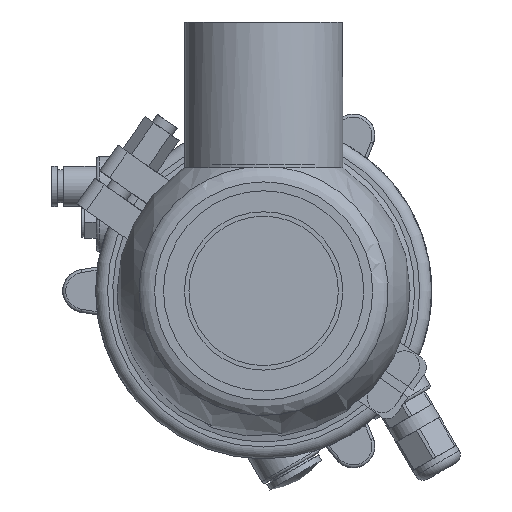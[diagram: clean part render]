
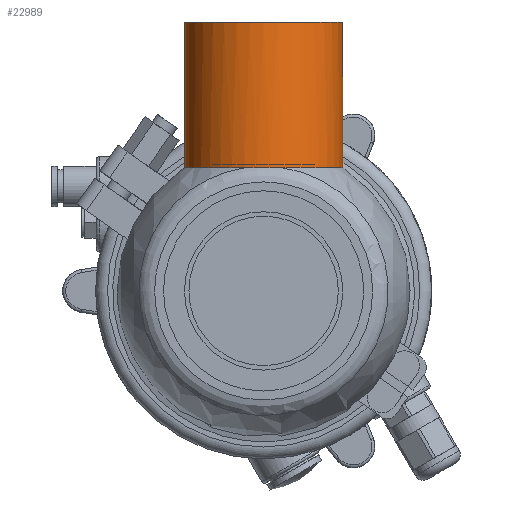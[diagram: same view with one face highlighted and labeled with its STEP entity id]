
A CAD part, front view. The second image highlights one B-rep face of the part: STEP entity #22989.
In plain terms, the highlighted cylindrical face has radius 26.5 mm (diameter 53 mm), a full revolution.
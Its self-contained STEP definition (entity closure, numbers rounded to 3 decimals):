
#1194 = CARTESIAN_POINT ( 'NONE',  ( 41.216, -25.714, -6.407 ) ) ;
#2255 = ORIENTED_EDGE ( 'NONE', *, *, #11009, .T. ) ;
#2672 = VERTEX_POINT ( 'NONE', #15886 ) ;
#5561 = AXIS2_PLACEMENT_3D ( 'NONE', #29015, #57636, #20089 ) ;
#6424 = CARTESIAN_POINT ( 'NONE',  ( 41.162, -26.433, 2.166 ) ) ;
#7413 = AXIS2_PLACEMENT_3D ( 'NONE', #47749, #19808, #10846 ) ;
#9836 = CARTESIAN_POINT ( 'NONE',  ( 41.216, -25.976, -5.353 ) ) ;
#10755 = CARTESIAN_POINT ( 'NONE',  ( 41.151, -26.485, -1.052 ) ) ;
#10846 = DIRECTION ( 'NONE',  ( 0., 0., 1. ) ) ;
#11009 = EDGE_CURVE ( 'NONE', #2672, #2672, #58656, .T. ) ;
#14131 = AXIS2_PLACEMENT_3D ( 'NONE', #55446, #45582, #41928 ) ;
#15509 = CYLINDRICAL_SURFACE ( 'NONE', #7413, 26.5 ) ;
#15707 = CARTESIAN_POINT ( 'NONE',  ( 41.148, -26.5, -0.514 ) ) ;
#15886 = CARTESIAN_POINT ( 'NONE',  ( 90., 0., 26.5 ) ) ;
#19808 = DIRECTION ( 'NONE',  ( -1., 0., 0. ) ) ;
#19942 = EDGE_CURVE ( 'NONE', #53050, #24224, #32777, .T. ) ;
#20089 = DIRECTION ( 'NONE',  ( 0., 0., 1. ) ) ;
#22989 = ADVANCED_FACE ( 'NONE', ( #57649, #52665 ), #15509, .T. ) ;
#23512 = CARTESIAN_POINT ( 'NONE',  ( 41.216, -25.714, -6.407 ) ) ;
#24224 = VERTEX_POINT ( 'NONE', #35287 ) ;
#26387 = EDGE_CURVE ( 'NONE', #24224, #53050, #32081, .T. ) ;
#28925 = CARTESIAN_POINT ( 'NONE',  ( 41.162, -26.42, -2.131 ) ) ;
#29015 = CARTESIAN_POINT ( 'NONE',  ( 90., 0., 0. ) ) ;
#29241 = CARTESIAN_POINT ( 'NONE',  ( 41.216, -25.976, 5.353 ) ) ;
#29842 = CARTESIAN_POINT ( 'NONE',  ( 41.216, -25.714, 6.407 ) ) ;
#32081 = B_SPLINE_CURVE_WITH_KNOTS ( 'NONE', 3,
 ( #29842, #29241, #48546, #6424, #34137, #15707, #10755, #28925, #51970, #47653, #9836, #1194 ),
 .UNSPECIFIED., .F., .F.,
 ( 4, 2, 2, 2, 2, 4 ),
 ( 0., 0.003, 0.006, 0.008, 0.01, 0.013 ),
 .UNSPECIFIED. ) ;
#32707 = EDGE_LOOP ( 'NONE', ( #46149, #43954 ) ) ;
#32777 = CIRCLE ( 'NONE', #14131, 26.5 ) ;
#34137 = CARTESIAN_POINT ( 'NONE',  ( 41.148, -26.499, 1.097 ) ) ;
#35287 = CARTESIAN_POINT ( 'NONE',  ( 41.216, -25.714, 6.407 ) ) ;
#41928 = DIRECTION ( 'NONE',  ( 0., 0., 1. ) ) ;
#43954 = ORIENTED_EDGE ( 'NONE', *, *, #26387, .T. ) ;
#45582 = DIRECTION ( 'NONE',  ( 1., 0., 0. ) ) ;
#46149 = ORIENTED_EDGE ( 'NONE', *, *, #19942, .T. ) ;
#47653 = CARTESIAN_POINT ( 'NONE',  ( 41.196, -26.173, -4.288 ) ) ;
#47749 = CARTESIAN_POINT ( 'NONE',  ( 0., 0., 0. ) ) ;
#48546 = CARTESIAN_POINT ( 'NONE',  ( 41.196, -26.172, 4.294 ) ) ;
#51970 = CARTESIAN_POINT ( 'NONE',  ( 41.17, -26.37, -2.673 ) ) ;
#52665 = FACE_OUTER_BOUND ( 'NONE', #54485, .T. ) ;
#53050 = VERTEX_POINT ( 'NONE', #23512 ) ;
#54485 = EDGE_LOOP ( 'NONE', ( #2255 ) ) ;
#55446 = CARTESIAN_POINT ( 'NONE',  ( 41.216, 0., 0. ) ) ;
#57636 = DIRECTION ( 'NONE',  ( -1., 0., 0. ) ) ;
#57649 = FACE_OUTER_BOUND ( 'NONE', #32707, .T. ) ;
#58656 = CIRCLE ( 'NONE', #5561, 26.5 ) ;
